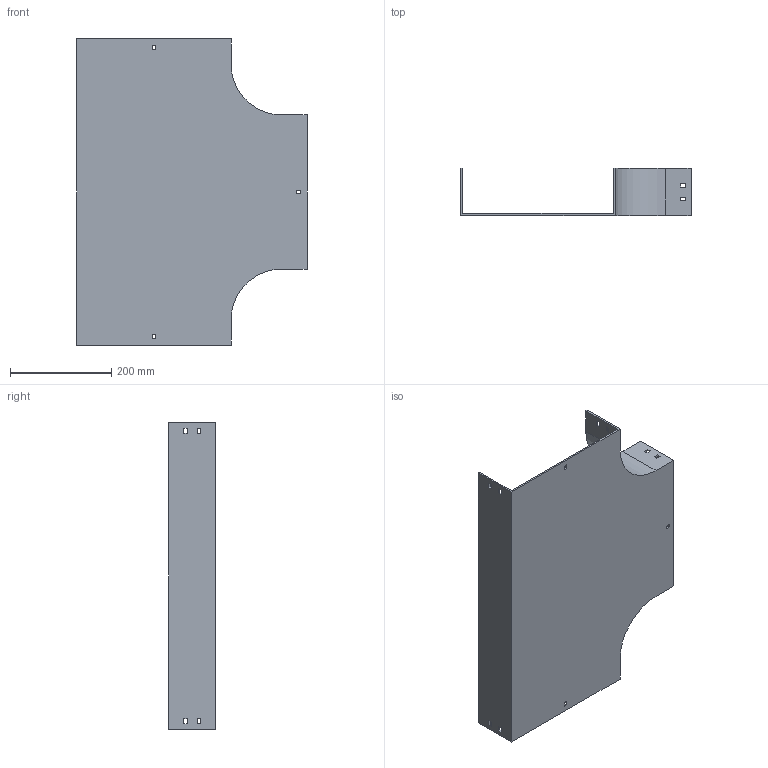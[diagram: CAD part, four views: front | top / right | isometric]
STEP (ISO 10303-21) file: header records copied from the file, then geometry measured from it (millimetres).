
FILE_DESCRIPTION (( 'STEP AP214' ), '1' );
FILE_NAME ('15B1I300.step', '2025-02-21T09:55:50', ( '' ), ( '' ), 'SwSTEP 2.0', 'SolidWorks 2023', '' );
FILE_SCHEMA (( 'AUTOMOTIVE_DESIGN' ));
Length unit declared in the file: millimetre
Products named in the file (1): 15B1I300
Bounding box: 454 x 92.5 x 604 mm (x, y, z)
Volume: 1163743.1 mm3; surface area: 675724.1 mm2
Topology: 1 solids, 1 shells, 82 faces, 240 edges, 160 vertices
Faces by surface type: plane 78, cylinder 4
Entity records: 2755 total; most frequent: CARTESIAN_POINT 483, ORIENTED_EDGE 480, DIRECTION 414, EDGE_CURVE 240, LINE 232, VECTOR 232, VERTEX_POINT 160, EDGE_LOOP 112
